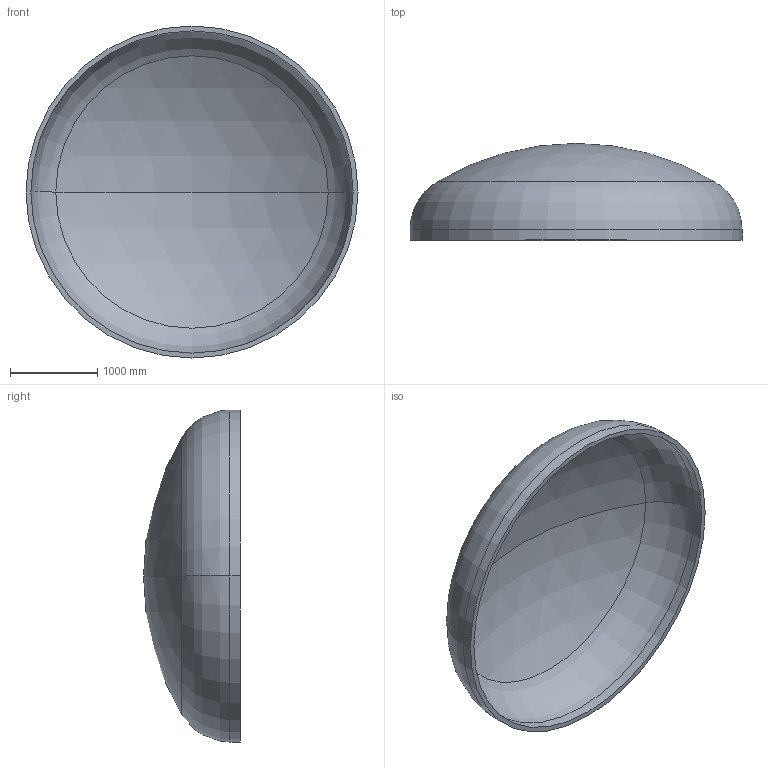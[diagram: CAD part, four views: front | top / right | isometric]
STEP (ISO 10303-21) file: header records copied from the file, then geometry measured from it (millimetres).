
FILE_DESCRIPTION (( 'STEP AP203' ), '1' );
FILE_NAME ('DIN 28013 Korbbogenform_-_Boden DIN 28013 - 3800 x 120 - I - s=56.step', '2016-07-01T21:31:54', ( '' ), ( '' ), 'SwSTEP 2.0', 'SolidWorks 2013', '' );
FILE_SCHEMA (( 'CONFIG_CONTROL_DESIGN' ));
Length unit declared in the file: millimetre
Products named in the file (1): DIN 28013 Korbbogenform_-_Boden DIN 28013 - 3800 x 120 - I - s=56
Bounding box: 3800 x 1108.41 x 3800 mm (x, y, z)
Volume: 941638569.5 mm3; surface area: 34295183.8 mm2
Topology: 1 solids, 1 shells, 13 faces, 24 edges, 14 vertices
Faces by surface type: torus 4, cylinder 4, sphere 4, plane 1
Entity records: 407 total; most frequent: DIRECTION 72, CARTESIAN_POINT 52, ORIENTED_EDGE 48, AXIS2_PLACEMENT_3D 34, EDGE_CURVE 24, CIRCLE 20, VERTEX_POINT 14, EDGE_LOOP 14
